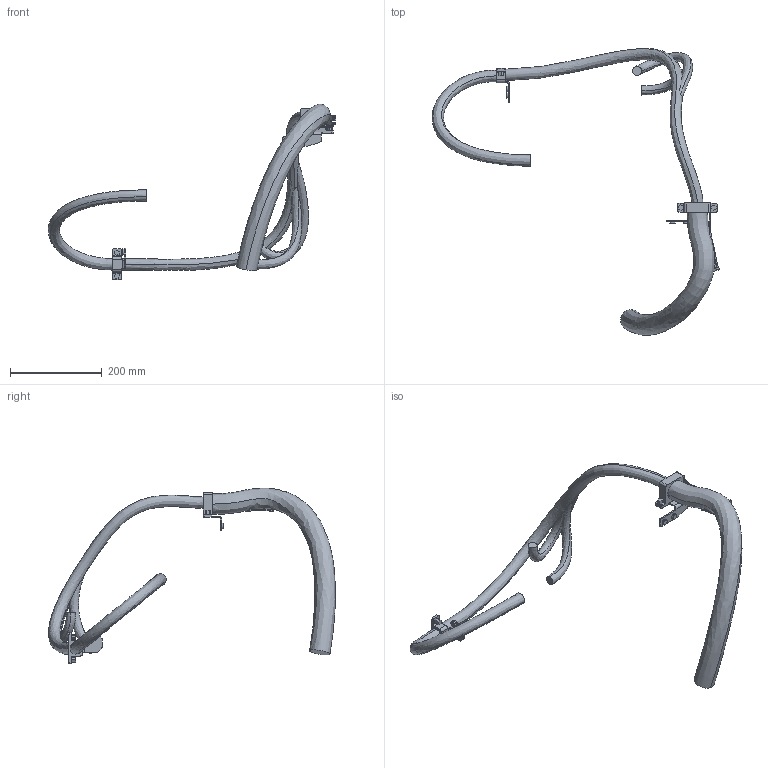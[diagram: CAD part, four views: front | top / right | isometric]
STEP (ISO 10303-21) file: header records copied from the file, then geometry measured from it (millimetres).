
FILE_DESCRIPTION (( 'STEP AP214' ), '1' );
FILE_NAME ('IRB5720_125kg-300_OmniCore_rev00_LINK03m_CABLE.step', '2025-07-08T10:10:48', ( '' ), ( '' ), 'SwSTEP 2.0', 'SolidWorks 2024', '' );
FILE_SCHEMA (( 'AUTOMOTIVE_DESIGN' ));
Length unit declared in the file: millimetre
Products named in the file (1): IRB5720_125kg-300_OmniCore_rev00_LINK03m_CABLE
Bounding box: 626.12 x 624.91 x 382.89 mm (x, y, z)
Volume: 1786965.7 mm3; surface area: 246704.7 mm2
Topology: 1 solids, 3 shells, 248 faces, 634 edges, 397 vertices
Faces by surface type: plane 153, cylinder 84, bspline 11
Entity records: 11472 total; most frequent: CARTESIAN_POINT 5278, ORIENTED_EDGE 1268, DIRECTION 1240, EDGE_CURVE 634, AXIS2_PLACEMENT_3D 418, VECTOR 404, LINE 404, VERTEX_POINT 397
